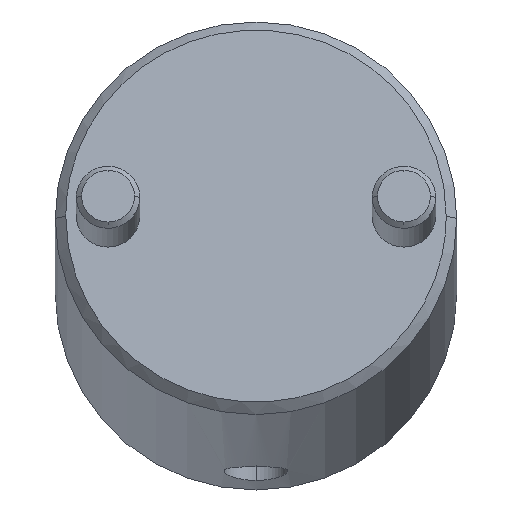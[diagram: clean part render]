
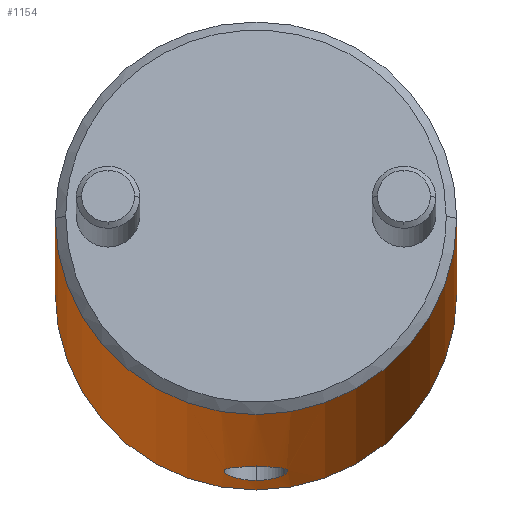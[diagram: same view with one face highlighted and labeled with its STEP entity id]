
A CAD part, top view. The second image highlights one B-rep face of the part: STEP entity #1154.
In plain terms, the highlighted cylindrical face has radius 19 mm (diameter 38 mm), a partial arc.
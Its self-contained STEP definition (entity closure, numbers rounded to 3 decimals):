
#890=CARTESIAN_POINT('Vertex',(0.,19.,1.)) ;
#893=CARTESIAN_POINT('Axis2P3D Location',(0.,0.,1.)) ;
#897=CARTESIAN_POINT('Vertex',(0.,-19.,1.)) ;
#1049=CARTESIAN_POINT('Axis2P3D Location',(0.,0.,-1.8)) ;
#1054=CARTESIAN_POINT('Line Origine',(0.,19.,-1.8)) ;
#1058=CARTESIAN_POINT('Vertex',(0.,19.,35.)) ;
#1061=CARTESIAN_POINT('Axis2P3D Location',(0.,0.,35.)) ;
#1065=CARTESIAN_POINT('Vertex',(0.,-19.,35.)) ;
#1068=CARTESIAN_POINT('Line Origine',(0.,-19.,-1.8)) ;
#1080=CARTESIAN_POINT('Control Point',(19.,0.,30.665)) ;
#1081=CARTESIAN_POINT('Control Point',(19.,0.082,30.665)) ;
#1082=CARTESIAN_POINT('Control Point',(19.,0.163,30.663)) ;
#1083=CARTESIAN_POINT('Control Point',(18.999,0.245,30.657)) ;
#1084=CARTESIAN_POINT('Control Point',(18.995,0.489,30.63)) ;
#1085=CARTESIAN_POINT('Control Point',(18.987,0.731,30.577)) ;
#1086=CARTESIAN_POINT('Control Point',(18.98,0.894,30.529)) ;
#1087=CARTESIAN_POINT('Control Point',(18.963,1.207,30.411)) ;
#1088=CARTESIAN_POINT('Control Point',(18.942,1.499,30.251)) ;
#1089=CARTESIAN_POINT('Control Point',(18.93,1.641,30.159)) ;
#1090=CARTESIAN_POINT('Control Point',(18.905,1.913,29.956)) ;
#1091=CARTESIAN_POINT('Control Point',(18.878,2.156,29.716)) ;
#1092=CARTESIAN_POINT('Control Point',(18.864,2.27,29.587)) ;
#1093=CARTESIAN_POINT('Control Point',(18.838,2.479,29.312)) ;
#1094=CARTESIAN_POINT('Control Point',(18.814,2.652,29.008)) ;
#1095=CARTESIAN_POINT('Control Point',(18.803,2.727,28.852)) ;
#1096=CARTESIAN_POINT('Control Point',(18.784,2.856,28.531)) ;
#1097=CARTESIAN_POINT('Control Point',(18.771,2.941,28.192)) ;
#1098=CARTESIAN_POINT('Control Point',(18.766,2.972,28.017)) ;
#1099=CARTESIAN_POINT('Control Point',(18.76,3.01,27.673)) ;
#1100=CARTESIAN_POINT('Control Point',(18.762,3.,27.329)) ;
#1101=CARTESIAN_POINT('Control Point',(18.764,2.983,27.158)) ;
#1102=CARTESIAN_POINT('Control Point',(18.776,2.912,26.736)) ;
#1103=CARTESIAN_POINT('Control Point',(18.797,2.77,26.335)) ;
#1104=CARTESIAN_POINT('Control Point',(18.814,2.659,26.105)) ;
#1105=CARTESIAN_POINT('Control Point',(18.856,2.348,25.599)) ;
#1106=CARTESIAN_POINT('Control Point',(18.905,1.924,25.187)) ;
#1107=CARTESIAN_POINT('Control Point',(18.932,1.648,24.985)) ;
#1108=CARTESIAN_POINT('Control Point',(18.969,1.16,24.728)) ;
#1109=CARTESIAN_POINT('Control Point',(18.991,0.626,24.586)) ;
#1110=CARTESIAN_POINT('Control Point',(18.997,0.418,24.549)) ;
#1111=CARTESIAN_POINT('Control Point',(19.,0.21,24.531)) ;
#1112=CARTESIAN_POINT('Control Point',(19.,0.,24.531)) ;
#1113=CARTESIAN_POINT('Vertex',(19.,0.,30.665)) ;
#1115=CARTESIAN_POINT('Vertex',(19.,0.,24.531)) ;
#1119=CARTESIAN_POINT('Control Point',(19.,0.,24.531)) ;
#1120=CARTESIAN_POINT('Control Point',(19.,-0.168,24.531)) ;
#1121=CARTESIAN_POINT('Control Point',(18.998,-0.336,24.543)) ;
#1122=CARTESIAN_POINT('Control Point',(18.994,-0.503,24.566)) ;
#1123=CARTESIAN_POINT('Control Point',(18.983,-0.835,24.637)) ;
#1124=CARTESIAN_POINT('Control Point',(18.966,-1.155,24.752)) ;
#1125=CARTESIAN_POINT('Control Point',(18.956,-1.308,24.82)) ;
#1126=CARTESIAN_POINT('Control Point',(18.933,-1.606,24.979)) ;
#1127=CARTESIAN_POINT('Control Point',(18.908,-1.879,25.178)) ;
#1128=CARTESIAN_POINT('Control Point',(18.894,-2.008,25.287)) ;
#1129=CARTESIAN_POINT('Control Point',(18.867,-2.249,25.522)) ;
#1130=CARTESIAN_POINT('Control Point',(18.841,-2.455,25.789)) ;
#1131=CARTESIAN_POINT('Control Point',(18.829,-2.548,25.93)) ;
#1132=CARTESIAN_POINT('Control Point',(18.8,-2.756,26.297)) ;
#1133=CARTESIAN_POINT('Control Point',(18.778,-2.898,26.697)) ;
#1134=CARTESIAN_POINT('Control Point',(18.768,-2.958,26.949)) ;
#1135=CARTESIAN_POINT('Control Point',(18.759,-3.014,27.375)) ;
#1136=CARTESIAN_POINT('Control Point',(18.762,-2.997,27.805)) ;
#1137=CARTESIAN_POINT('Control Point',(18.765,-2.977,27.979)) ;
#1138=CARTESIAN_POINT('Control Point',(18.778,-2.9,28.41)) ;
#1139=CARTESIAN_POINT('Control Point',(18.8,-2.751,28.82)) ;
#1140=CARTESIAN_POINT('Control Point',(18.817,-2.636,29.058)) ;
#1141=CARTESIAN_POINT('Control Point',(18.854,-2.361,29.503)) ;
#1142=CARTESIAN_POINT('Control Point',(18.895,-2.008,29.876)) ;
#1143=CARTESIAN_POINT('Control Point',(18.915,-1.812,30.044)) ;
#1144=CARTESIAN_POINT('Control Point',(18.955,-1.366,30.354)) ;
#1145=CARTESIAN_POINT('Control Point',(18.984,-0.86,30.555)) ;
#1146=CARTESIAN_POINT('Control Point',(18.995,-0.573,30.63)) ;
#1147=CARTESIAN_POINT('Control Point',(19.,-0.288,30.665)) ;
#1148=CARTESIAN_POINT('Control Point',(19.,0.,30.665)) ;
#894=DIRECTION('Axis2P3D Direction',(0.,0.,1.)) ;
#1050=DIRECTION('Axis2P3D Direction',(0.,-0.,1.)) ;
#1051=DIRECTION('Axis2P3D XDirection',(0.,-1.,0.)) ;
#1055=DIRECTION('Vector Direction',(0.,0.,1.)) ;
#1062=DIRECTION('Axis2P3D Direction',(0.,-0.,1.)) ;
#1069=DIRECTION('Vector Direction',(0.,0.,1.)) ;
#895=AXIS2_PLACEMENT_3D('Circle Axis2P3D',#893,#894,$) ;
#1052=AXIS2_PLACEMENT_3D('Cylinder Axis2P3D',#1049,#1050,#1051) ;
#1063=AXIS2_PLACEMENT_3D('Circle Axis2P3D',#1061,#1062,$) ;
#1074=ORIENTED_EDGE('',*,*,#1060,.F.) ;
#1075=ORIENTED_EDGE('',*,*,#1067,.T.) ;
#1076=ORIENTED_EDGE('',*,*,#1072,.T.) ;
#1077=ORIENTED_EDGE('',*,*,#899,.F.) ;
#1151=ORIENTED_EDGE('',*,*,#1117,.T.) ;
#1152=ORIENTED_EDGE('',*,*,#1149,.T.) ;
#1153=FACE_BOUND('',#1150,.T.) ;
#1056=VECTOR('Line Direction',#1055,1.) ;
#1070=VECTOR('Line Direction',#1069,1.) ;
#1154=ADVANCED_FACE('MANIFOLD_SOLID_BREP #1252',(#1078,#1153),#1053,.T.) ;
#1079=B_SPLINE_CURVE_WITH_KNOTS('',5,(#1080,#1081,#1082,#1083,#1084,#1085,#1086,#1087,#1088,#1089,#1090,#1091,#1092,#1093,#1094,#1095,#1096,#1097,#1098,#1099,#1100,#1101,#1102,#1103,#1104,#1105,#1106,#1107,#1108,#1109,#1110,#1111,#1112),.UNSPECIFIED.,.F.,.U.,(6,3,3,3,3,3,3,3,3,3,6),(0.,0.585,1.767,2.972,4.197,5.41,6.616,7.814,9.611,12.008,13.501),.UNSPECIFIED.) ;
#1118=B_SPLINE_CURVE_WITH_KNOTS('',5,(#1119,#1120,#1121,#1122,#1123,#1124,#1125,#1126,#1127,#1128,#1129,#1130,#1131,#1132,#1133,#1134,#1135,#1136,#1137,#1138,#1139,#1140,#1141,#1142,#1143,#1144,#1145,#1146,#1147,#1148),.UNSPECIFIED.,.F.,.U.,(6,3,3,3,3,3,3,3,3,6),(0.,1.206,2.407,3.614,4.817,6.61,7.813,9.635,11.452,13.504),.UNSPECIFIED.) ;
#896=CIRCLE('generated circle',#895,19.) ;
#1064=CIRCLE('generated circle',#1063,19.) ;
#1053=CYLINDRICAL_SURFACE('generated cylinder',#1052,19.) ;
#899=EDGE_CURVE('',#891,#898,#896,.F.) ;
#1060=EDGE_CURVE('',#1059,#891,#1057,.F.) ;
#1067=EDGE_CURVE('',#1059,#1066,#1064,.F.) ;
#1072=EDGE_CURVE('',#1066,#898,#1071,.F.) ;
#1117=EDGE_CURVE('',#1114,#1116,#1079,.T.) ;
#1149=EDGE_CURVE('',#1116,#1114,#1118,.T.) ;
#1073=EDGE_LOOP('',(#1074,#1075,#1076,#1077)) ;
#1150=EDGE_LOOP('',(#1151,#1152)) ;
#1078=FACE_OUTER_BOUND('',#1073,.T.) ;
#1057=LINE('Line',#1054,#1056) ;
#1071=LINE('Line',#1068,#1070) ;
#891=VERTEX_POINT('',#890) ;
#898=VERTEX_POINT('',#897) ;
#1059=VERTEX_POINT('',#1058) ;
#1066=VERTEX_POINT('',#1065) ;
#1114=VERTEX_POINT('',#1113) ;
#1116=VERTEX_POINT('',#1115) ;
